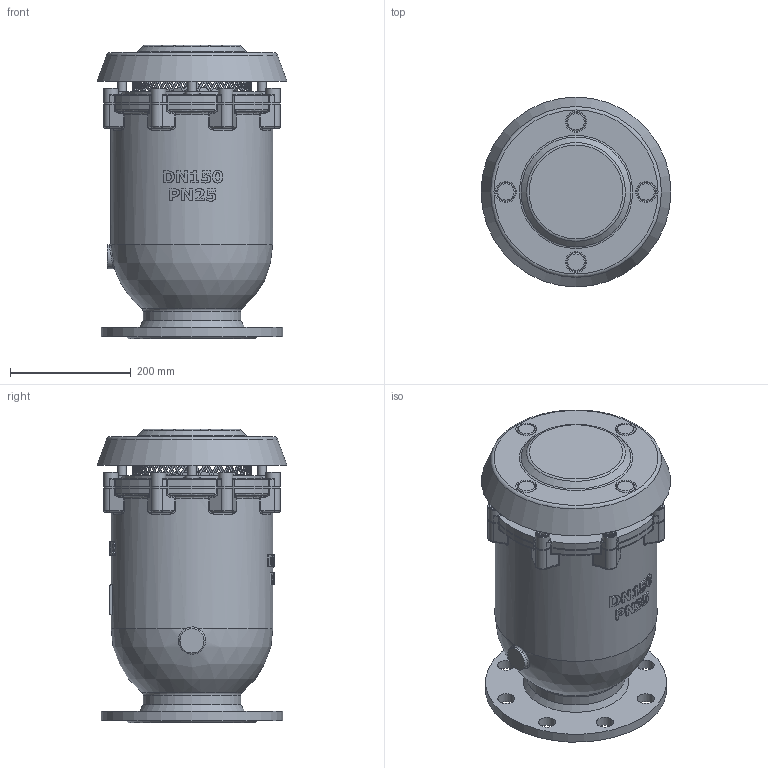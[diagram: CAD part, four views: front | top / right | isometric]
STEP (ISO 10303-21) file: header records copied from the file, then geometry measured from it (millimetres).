
FILE_DESCRIPTION(('STEP AP242'), '1');
FILE_NAME('Âîçäóøíûé êëàïàí DUOJET KX', '', ('UNSPECIFIED'), ('UNSPECIFIED'), 'C3D Converter', 'C3D Toolkit', '');
FILE_SCHEMA(('AP242_MANAGED_MODEL_BASED_3D_ENGINEERING_MIM_LF { 1 0 10303 442 1 1 4 }'));
Length unit declared in the file: millimetre
Assembly tree (33 placements, depth 2):
  (unnamed)
    (unnamed)
    (unnamed)
    (unnamed)
    (unnamed)
    (unnamed)
    (unnamed)
    (unnamed)  x4
    (unnamed)  x4
    (unnamed)
    (unnamed)
    (unnamed)
    (unnamed)
    (unnamed)  x7
    (unnamed)  x4
    (unnamed)  x4
Bounding box: 314 x 314 x 485 mm (x, y, z)
Volume: 5419692.8 mm3; surface area: 2262443.3 mm2
Topology: 47 solids, 48 shells, 1746 faces, 4550 edges, 2959 vertices
Faces by surface type: plane 590, bspline 460, cylinder 418, extrusion 134, torus 73, cone 58, sphere 13
Full cylindrical faces by diameter (mm): 6 x3, 8 x12, 8.8 x4, 9 x10, 10 x4, 12 x32, 14 x4, 18 x8, 19.2 x8, 20 x4, 24 x8, 27.411 x1, 28 x8, 37.5 x2, 40 x1, 43.5 x1, 150 x2, 162 x1, 196 x2, 198 x1, 205 x2, 211 x1, 228 x1, 232 x2, 244 x2, 256 x1, 266 x2, 268 x3, 300 x1
Entity records: 135611 total; most frequent: CARTESIAN_POINT 97630, ORIENTED_EDGE 7880, DIRECTION 5136, EDGE_CURVE 3940, VERTEX_POINT 2653, EDGE_LOOP 1986, B_SPLINE_CURVE_WITH_KNOTS 1950, AXIS2_PLACEMENT_3D 1929
